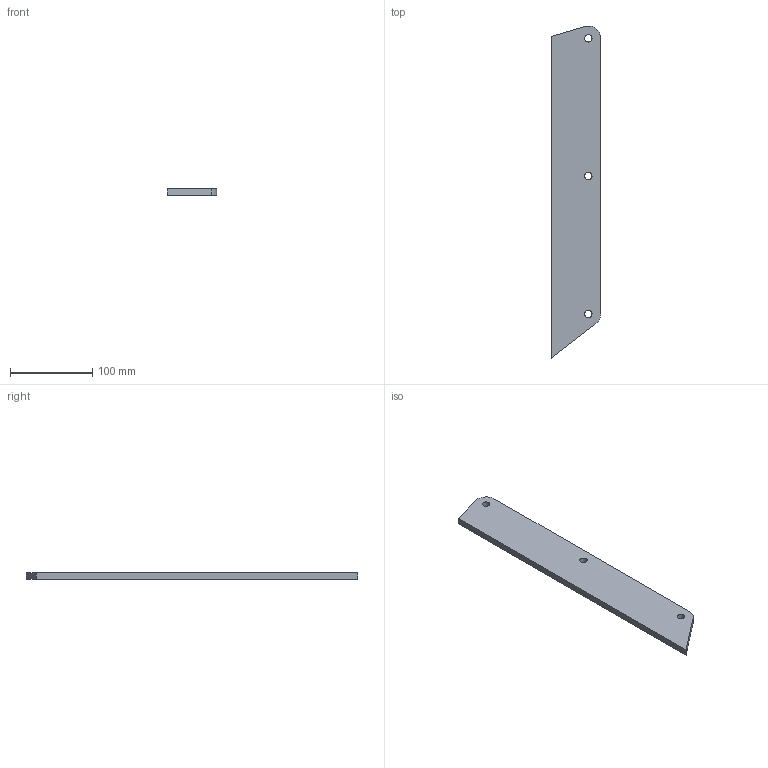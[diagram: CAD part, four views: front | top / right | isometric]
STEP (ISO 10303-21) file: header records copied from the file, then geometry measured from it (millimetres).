
FILE_DESCRIPTION(/* description */ (''),/* implementation_level */ '2;1');
FILE_NAME(/* name */ 'Pos133-Plaatwerk D= 8-S235JRG2-3st',/* time_stamp */ '2024-08-06T13:37:43+02:00',/* author */ (''),/* organization */ (''),/* preprocessor_version */ 'ST-DEVELOPER v16.5',/* originating_system */ 'HiCAD 2024 2901.2 Build 361',/* authorisation */ '');
FILE_SCHEMA (('AUTOMOTIVE_DESIGN { 1 0 10303 214 1 1 1 1 }'));
Length unit declared in the file: millimetre
Products named in the file (1): Pos133-Plaatwerk D= 8-S235JRG2-3st
Bounding box: 60 x 404.22 x 8 mm (x, y, z)
Volume: 178777.9 mm3; surface area: 52409.6 mm2
Topology: 1 solids, 1 shells, 11 faces, 30 edges, 21 vertices
Faces by surface type: plane 6, cylinder 5
Full cylindrical faces by diameter (mm): 9 x3
Entity records: 586 total; most frequent: DIRECTION 56, CARTESIAN_POINT 53, PRESENTATION_STYLE_ASSIGNMENT 49, COLOUR_RGB 49, DRAUGHTING_PRE_DEFINED_CURVE_FONT 48, CURVE_STYLE 48, OVER_RIDING_STYLED_ITEM 48, ORIENTED_EDGE 48
